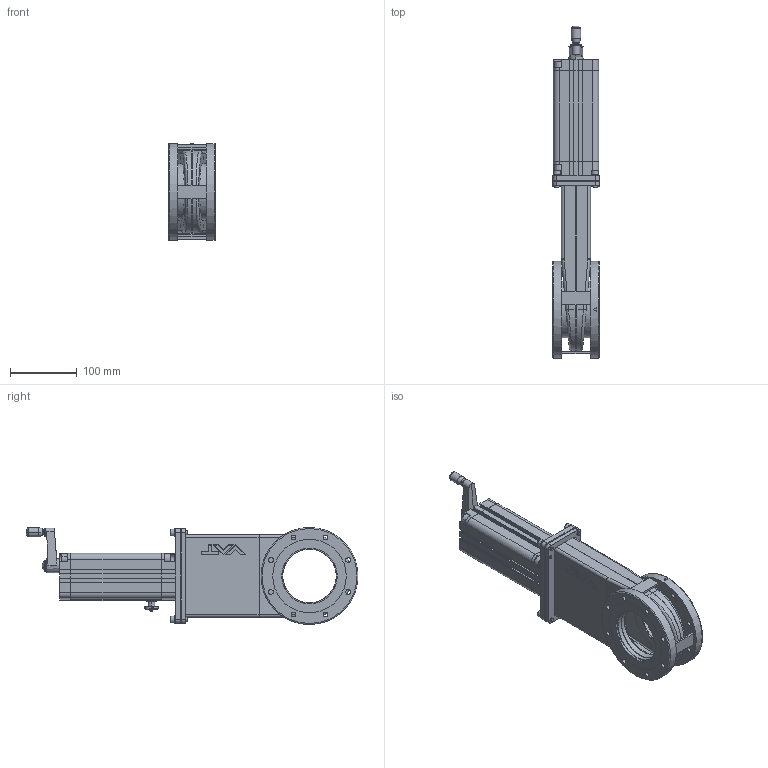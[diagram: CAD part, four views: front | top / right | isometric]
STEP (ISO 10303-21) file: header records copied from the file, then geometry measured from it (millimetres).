
FILE_DESCRIPTION(/* description */ (''),/* implementation_level */ '2;1');
FILE_NAME(/* name */ '1046399580_203',/* time_stamp */ '2009-11-24T14:01:45+01:00',/* author */ (''),/* organization */ (''),/* preprocessor_version */ 'ST-DEVELOPER v11',/* originating_system */ 'UGS - NX 5.0',/* authorisation */ '');
FILE_SCHEMA (('CONFIG_CONTROL_DESIGN'));
Length unit declared in the file: millimetre
Products named in the file (29): 350769.3; 351945.10; 351298.6; 395127; 356605.3; 251262.4; 351301.5; 301626.1; 342971.1; 343006.1; 350896.2; N-6092-118.1; n-6134-408; n-6195-408; 218189; 260719.2; 350855.2; 260826.1; 362706.4; 301646.1; 259432.1; 260722.6; 332680.2; 259597.1; 351296.12; 351302.14; 343008.1; 350915.1; 371167.2
Assembly tree (43 placements, depth 4):
  371167.2
    259597.1  x4
    350915.1
      N-6092-118.1  x2
      350896.2
    343008.1
      343006.1
      342971.1  x2
      301626.1
    351302.14
      351301.5  x2
      351296.12
        351945.10  x2
        350769.3
      251262.4  x3
      356605.3
      395127
      351298.6
    332680.2
    260722.6
    259432.1
    301646.1
    362706.4
    260826.1
    350855.2
    260719.2
    218189  x4
    n-6195-408
    n-6134-408  x4
Bounding box: 70 x 496.66 x 145 mm (x, y, z)
Volume: 1070348.2 mm3; surface area: 451101.3 mm2
Topology: 47 solids, 47 shells, 1306 faces, 3373 edges, 2216 vertices
Faces by surface type: plane 720, cylinder 379, revolution 94, cone 57, bspline 28, extrusion 14, sphere 12, torus 2
Full cylindrical faces by diameter (mm): 2.2 x1, 2.5 x2, 3 x2, 3.17 x1, 4 x2, 4.96 x4, 4.985 x1, 4.991 x2, 5 x8, 5.2 x6, 5.22 x4, 5.3 x1, 6 x8, 6.4 x4, 6.5 x10, 7.2 x16, 10 x4, 10.008 x1, 10.4 x4, 11 x6, 11.5 x4, 12 x2, 14 x3, 15 x1, 15.2 x1, 16 x1, 16.2 x1, 21.976 x1, 23 x1, 25.345 x1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
Entity records: 34393 total; most frequent: CARTESIAN_POINT 7100, DIRECTION 4835, ORIENTED_EDGE 4766, EDGE_CURVE 2383, VERTEX_POINT 1674, AXIS2_PLACEMENT_3D 1666, VECTOR 1451, LINE 1437
